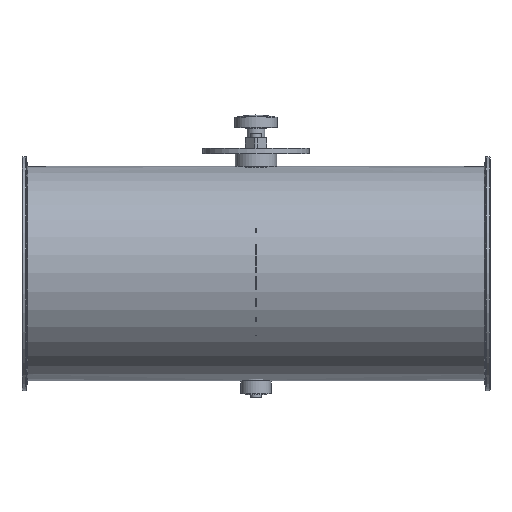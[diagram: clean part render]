
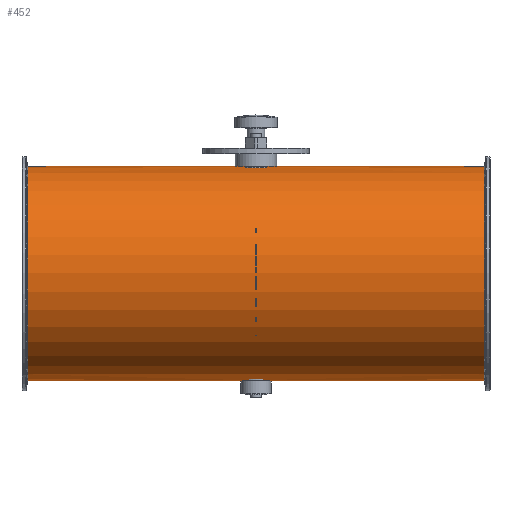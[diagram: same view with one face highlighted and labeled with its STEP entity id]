
A CAD part, top view. The second image highlights one B-rep face of the part: STEP entity #452.
In plain terms, the highlighted cylindrical face has radius 100.8 mm (diameter 201.6 mm), a full revolution.
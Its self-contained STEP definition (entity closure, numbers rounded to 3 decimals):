
#105=B_SPLINE_CURVE_WITH_KNOTS('',3,(#1976,#1977,#1978,#1979,#1980,#1981,
#1982,#1983,#1984,#1985,#1986,#1987,#1988,#1989,#1990,#1991,#1992,#1993),
 .UNSPECIFIED.,.T.,.F.,(2,2,2,2,2,2,2,2,2,2,2),(-0.125,0.,0.125,0.25,0.375,
0.5,0.625,0.75,0.875,1.,1.125),.UNSPECIFIED.);
#106=B_SPLINE_CURVE_WITH_KNOTS('',3,(#1995,#1996,#1997,#1998,#1999,#2000,
#2001,#2002,#2003,#2004,#2005,#2006,#2007,#2008,#2009,#2010,#2011,#2012),
 .UNSPECIFIED.,.T.,.F.,(2,2,2,2,2,2,2,2,2,2,2),(-0.125,0.,0.125,0.25,0.375,
0.5,0.625,0.75,0.875,1.,1.125),.UNSPECIFIED.);
#242=CYLINDRICAL_SURFACE('',#1342,100.8);
#342=FACE_BOUND('',#649,.T.);
#343=FACE_BOUND('',#650,.T.);
#344=FACE_BOUND('',#651,.T.);
#345=FACE_BOUND('',#652,.T.);
#452=ADVANCED_FACE('',(#342,#343,#344,#345),#242,.T.);
#649=EDGE_LOOP('',(#885));
#650=EDGE_LOOP('',(#886));
#651=EDGE_LOOP('',(#887));
#652=EDGE_LOOP('',(#888));
#885=ORIENTED_EDGE('',*,*,#1131,.T.);
#886=ORIENTED_EDGE('',*,*,#1132,.F.);
#887=ORIENTED_EDGE('',*,*,#1133,.F.);
#888=ORIENTED_EDGE('',*,*,#1134,.T.);
#1013=VERTEX_POINT('',#1975);
#1014=VERTEX_POINT('',#1994);
#1015=VERTEX_POINT('',#2013);
#1016=VERTEX_POINT('',#2015);
#1131=EDGE_CURVE('',#1013,#1013,#1207,.T.);
#1132=EDGE_CURVE('',#1014,#1014,#105,.T.);
#1133=EDGE_CURVE('',#1015,#1015,#106,.T.);
#1134=EDGE_CURVE('',#1016,#1016,#1208,.T.);
#1207=CIRCLE('',#1340,100.8);
#1208=CIRCLE('',#1341,100.8);
#1340=AXIS2_PLACEMENT_3D('',#1974,#1651,#1652);
#1341=AXIS2_PLACEMENT_3D('',#2014,#1653,#1654);
#1342=AXIS2_PLACEMENT_3D('',#2016,#1655,#1656);
#1651=DIRECTION('',(-1.,0.,0.));
#1652=DIRECTION('',(0.,0.,-1.));
#1653=DIRECTION('',(1.,0.,0.));
#1654=DIRECTION('',(0.,0.,1.));
#1655=DIRECTION('',(1.,0.,0.));
#1656=DIRECTION('',(0.,0.,-1.));
#1974=CARTESIAN_POINT('',(214.804,-51.,125.));
#1975=CARTESIAN_POINT('',(214.804,-51.,24.2));
#1976=CARTESIAN_POINT('',(2.644,49.303,115.));
#1977=CARTESIAN_POINT('',(-2.644,49.303,115.));
#1978=CARTESIAN_POINT('',(-5.228,49.422,116.086));
#1979=CARTESIAN_POINT('',(-8.915,49.681,119.774));
#1980=CARTESIAN_POINT('',(-9.999,49.8,122.384));
#1981=CARTESIAN_POINT('',(-10.001,49.8,127.605));
#1982=CARTESIAN_POINT('',(-8.941,49.683,130.2));
#1983=CARTESIAN_POINT('',(-5.208,49.421,133.936));
#1984=CARTESIAN_POINT('',(-2.615,49.303,134.999));
#1985=CARTESIAN_POINT('',(2.607,49.303,135.001));
#1986=CARTESIAN_POINT('',(5.219,49.422,133.92));
#1987=CARTESIAN_POINT('',(8.91,49.681,130.236));
#1988=CARTESIAN_POINT('',(9.997,49.8,127.652));
#1989=CARTESIAN_POINT('',(10.003,49.8,122.367));
#1990=CARTESIAN_POINT('',(8.919,49.682,119.78));
#1991=CARTESIAN_POINT('',(5.234,49.422,116.089));
#1992=CARTESIAN_POINT('',(2.644,49.303,115.));
#1993=CARTESIAN_POINT('',(-2.644,49.303,115.));
#1994=CARTESIAN_POINT('',(0.,49.303,115.));
#1995=CARTESIAN_POINT('',(-2.644,-151.303,115.));
#1996=CARTESIAN_POINT('',(2.644,-151.303,115.));
#1997=CARTESIAN_POINT('',(5.228,-151.422,116.086));
#1998=CARTESIAN_POINT('',(8.915,-151.681,119.774));
#1999=CARTESIAN_POINT('',(9.999,-151.8,122.384));
#2000=CARTESIAN_POINT('',(10.001,-151.8,127.605));
#2001=CARTESIAN_POINT('',(8.941,-151.683,130.2));
#2002=CARTESIAN_POINT('',(5.208,-151.421,133.936));
#2003=CARTESIAN_POINT('',(2.615,-151.303,134.999));
#2004=CARTESIAN_POINT('',(-2.607,-151.303,135.001));
#2005=CARTESIAN_POINT('',(-5.219,-151.422,133.92));
#2006=CARTESIAN_POINT('',(-8.91,-151.681,130.236));
#2007=CARTESIAN_POINT('',(-9.997,-151.8,127.652));
#2008=CARTESIAN_POINT('',(-10.003,-151.8,122.367));
#2009=CARTESIAN_POINT('',(-8.919,-151.682,119.78));
#2010=CARTESIAN_POINT('',(-5.234,-151.422,116.089));
#2011=CARTESIAN_POINT('',(-2.644,-151.303,115.));
#2012=CARTESIAN_POINT('',(2.644,-151.303,115.));
#2013=CARTESIAN_POINT('',(0.,-151.303,115.));
#2014=CARTESIAN_POINT('',(-214.804,-51.,125.));
#2015=CARTESIAN_POINT('',(-214.804,-51.,225.8));
#2016=CARTESIAN_POINT('',(-220.,-51.,125.));
